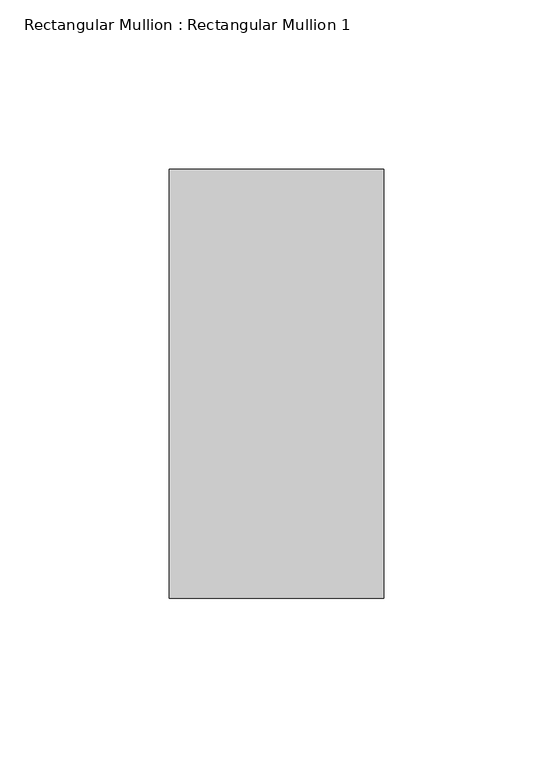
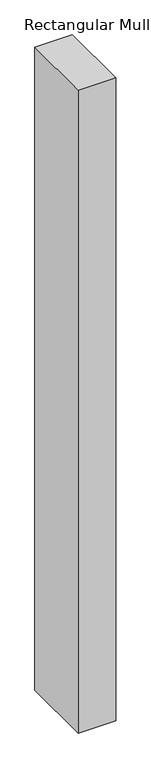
"""IFC4 building model written with IfcOpenShell, lengths in millimetres: member geometry, Rectangular Mullion : Rectangular Mullion 1."""

from ifc_helpers import new_model, si_unit, frame, origin, place, context, project, spatial, polyline, outline, extrude, source, transform, mapped, element, save


def rectangular_mullion_rectangular_mullion_1_c5460103(model_context):
    return source(origin(), model_context, "Body", "SweptSolid", [
        extrude(outline(polyline([(0.0, 63.5), (0.0, -63.5), (-63.5, -63.5), (-63.5, 63.5), (0.0, 63.5)])), frame((0.0, 0.0, -1150.6200002), z_axis=(0.0, 0.0, 1.0), x_axis=(1.0, 0.0, 0.0)), (0.0, 0.0, 1.0), 1150.6200002),
    ])


if __name__ == "__main__":
    model = new_model("IFC4")
    model_context = context("Model", 3, world=origin())
    ifc_project = project(units=[si_unit("LENGTHUNIT", "METRE", prefix="MILLI")], contexts=[model_context])
    site = spatial("IfcSite", under=ifc_project)
    building = spatial("IfcBuilding", under=site)
    placement = place(None, origin())
    rectangular_mullion_rectangular_mullion_1_shape = rectangular_mullion_rectangular_mullion_1_c5460103(model_context)
    element("IfcMember", 1, ObjectType="Rectangular Mullion : Rectangular Mullion 1", at=placement, inside=building, context=model_context, shape_type="MappedRepresentation", body=[
        mapped(rectangular_mullion_rectangular_mullion_1_shape, transform((0.0, 0.0, 0.0), x_axis=(1.0, 0.0, 0.0), y_axis=(0.0, 1.0, 0.0), z_axis=(0.0, 0.0, 1.0))),
    ])
    save(model, "model.ifc")
